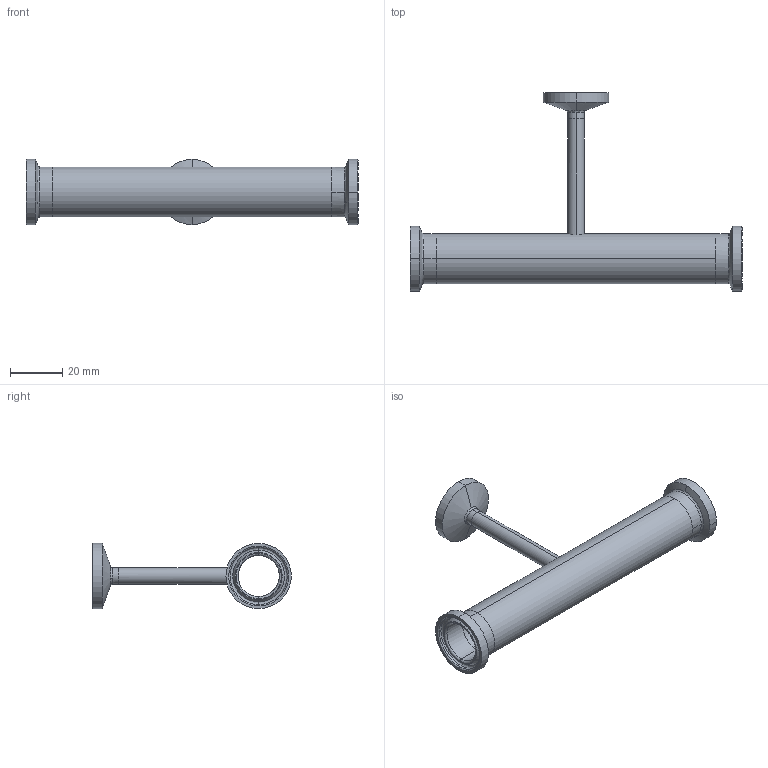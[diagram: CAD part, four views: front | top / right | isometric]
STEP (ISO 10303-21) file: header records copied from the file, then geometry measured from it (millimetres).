
FILE_DESCRIPTION (( 'STEP AP214' ), '1' );
FILE_NAME ('TEG7R6L.75x.25-...STEP', '2016-05-24T04:56:12', ( 'eran' ), ( '' ), 'SwSTEP 2.0', 'SolidWorks 2016', '' );
FILE_SCHEMA (( 'AUTOMOTIVE_DESIGN' ));
Length unit declared in the file: millimetre
Products named in the file (1): TEG7R6L.75x.25-..
Bounding box: 127 x 76 x 24.99 mm (x, y, z)
Volume: 15301.5 mm3; surface area: 18562.5 mm2
Topology: 4 solids, 4 shells, 80 faces, 188 edges, 120 vertices
Faces by surface type: cylinder 32, bspline 24, plane 12, cone 12
Entity records: 2809 total; most frequent: CARTESIAN_POINT 905, DIRECTION 414, ORIENTED_EDGE 376, EDGE_CURVE 188, AXIS2_PLACEMENT_3D 185, CIRCLE 128, VERTEX_POINT 120, EDGE_LOOP 94
